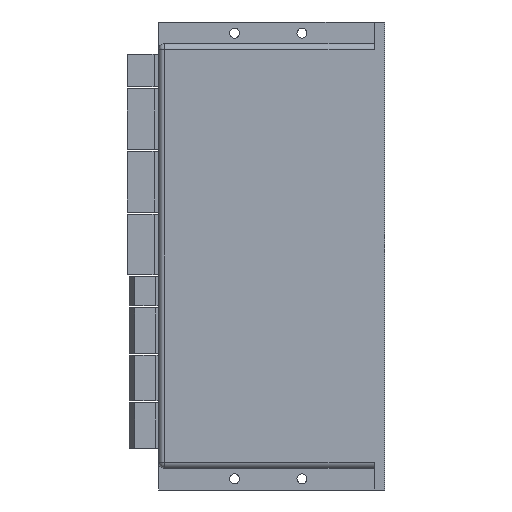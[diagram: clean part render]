
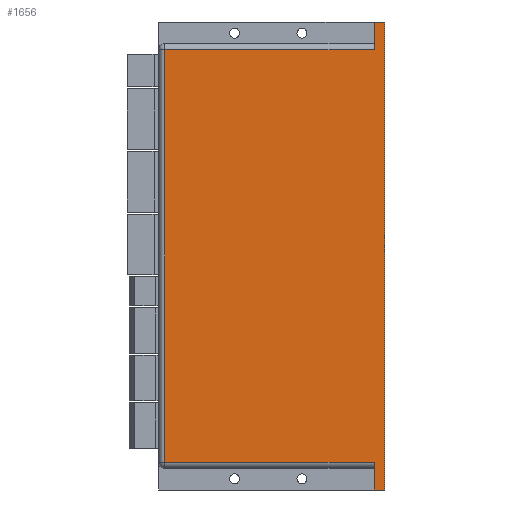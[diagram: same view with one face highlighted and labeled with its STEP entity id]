
A CAD part, left-side view. The second image highlights one B-rep face of the part: STEP entity #1656.
In plain terms, the highlighted planar face has unit normal (-1, 0, 0).
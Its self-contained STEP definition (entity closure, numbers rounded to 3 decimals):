
#34=DIRECTION('',(0.,0.,1.));
#35=VECTOR('',#34,156.5);
#36=CARTESIAN_POINT('',(-13.4,0.,-78.25));
#37=LINE('',#36,#35);
#75=DIRECTION('',(0.,1.,0.));
#76=VECTOR('',#75,3.5);
#77=CARTESIAN_POINT('',(-13.4,0.,78.25));
#78=LINE('',#77,#76);
#83=DIRECTION('',(0.,0.,-1.));
#84=VECTOR('',#83,9.25);
#85=CARTESIAN_POINT('',(-13.4,3.5,78.25));
#86=LINE('',#85,#84);
#112=DIRECTION('',(0.,0.,-1.));
#113=VECTOR('',#112,9.25);
#114=CARTESIAN_POINT('',(-13.4,3.5,-69.));
#115=LINE('',#114,#113);
#133=DIRECTION('',(0.,-1.,0.));
#134=VECTOR('',#133,70.1);
#135=CARTESIAN_POINT('',(-13.4,73.6,-69.));
#136=LINE('',#135,#134);
#137=DIRECTION('',(0.,0.,1.));
#138=VECTOR('',#137,138.);
#139=CARTESIAN_POINT('',(-13.4,73.6,-69.));
#140=LINE('',#139,#138);
#141=DIRECTION('',(0.,1.,0.));
#142=VECTOR('',#141,70.1);
#143=CARTESIAN_POINT('',(-13.4,3.5,69.));
#144=LINE('',#143,#142);
#145=DIRECTION('',(0.,1.,0.));
#146=VECTOR('',#145,3.5);
#147=CARTESIAN_POINT('',(-13.4,0.,-78.25));
#148=LINE('',#147,#146);
#1123=CARTESIAN_POINT('',(-13.4,0.,-78.25));
#1124=CARTESIAN_POINT('',(-13.4,0.,78.25));
#1125=VERTEX_POINT('',#1123);
#1126=VERTEX_POINT('',#1124);
#1143=CARTESIAN_POINT('',(-13.4,3.5,-78.25));
#1144=VERTEX_POINT('',#1143);
#1145=CARTESIAN_POINT('',(-13.4,3.5,78.25));
#1146=VERTEX_POINT('',#1145);
#1459=CARTESIAN_POINT('',(-13.4,73.6,-69.));
#1460=CARTESIAN_POINT('',(-13.4,3.5,-69.));
#1461=VERTEX_POINT('',#1459);
#1462=VERTEX_POINT('',#1460);
#1469=CARTESIAN_POINT('',(-13.4,73.6,69.));
#1470=VERTEX_POINT('',#1469);
#1479=CARTESIAN_POINT('',(-13.4,3.5,69.));
#1480=VERTEX_POINT('',#1479);
#1637=CARTESIAN_POINT('',(-13.4,0.,-78.25));
#1638=DIRECTION('',(-1.,0.,0.));
#1639=DIRECTION('',(0.,0.,1.));
#1640=AXIS2_PLACEMENT_3D('',#1637,#1638,#1639);
#1641=PLANE('',#1640);
#1643=ORIENTED_EDGE('',*,*,#1642,.F.);
#1645=ORIENTED_EDGE('',*,*,#1644,.T.);
#1647=ORIENTED_EDGE('',*,*,#1646,.F.);
#1648=ORIENTED_EDGE('',*,*,#1595,.F.);
#1649=ORIENTED_EDGE('',*,*,#1583,.F.);
#1650=ORIENTED_EDGE('',*,*,#1504,.F.);
#1652=ORIENTED_EDGE('',*,*,#1651,.T.);
#1653=ORIENTED_EDGE('',*,*,#1620,.F.);
#1654=EDGE_LOOP('',(#1643,#1645,#1647,#1648,#1649,#1650,#1652,#1653));
#1655=FACE_OUTER_BOUND('',#1654,.F.);
#1656=ADVANCED_FACE('',(#1655),#1641,.T.);
#1504=EDGE_CURVE('',#1125,#1126,#37,.T.);
#1583=EDGE_CURVE('',#1126,#1146,#78,.T.);
#1595=EDGE_CURVE('',#1146,#1480,#86,.T.);
#1620=EDGE_CURVE('',#1462,#1144,#115,.T.);
#1642=EDGE_CURVE('',#1461,#1462,#136,.T.);
#1644=EDGE_CURVE('',#1461,#1470,#140,.T.);
#1646=EDGE_CURVE('',#1480,#1470,#144,.T.);
#1651=EDGE_CURVE('',#1125,#1144,#148,.T.);
